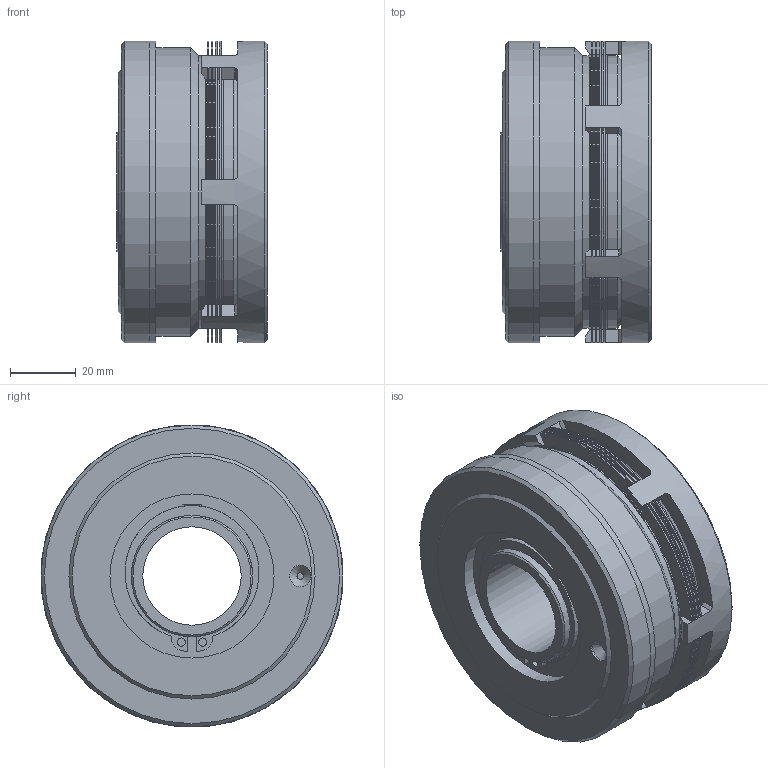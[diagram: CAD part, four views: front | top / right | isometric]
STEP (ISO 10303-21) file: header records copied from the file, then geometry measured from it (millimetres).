
FILE_DESCRIPTION(/* description */ (''),/* implementation_level */ '2;1');
FILE_NAME(/* name */ 'X:\INVENTOR\DISEGNI\05_Friz_Elettmag-Lam\05_03 EC_C\05_03_092_01 EC092_C\05_03_092_01 EC092_C@STEP.stp',/* time_stamp */ '2023-03-07T10:20:02+01:00',/* author */ ('alessio'),/* organization */ (''),/* preprocessor_version */ 'ST-DEVELOPER v18.1',/* originating_system */ 'Autodesk Inventor 2021',/* authorisation */ '');
FILE_SCHEMA (('AUTOMOTIVE_DESIGN { 1 0 10303 214 3 1 1 }'));
Products named in the file (1): 05_03_092_01 EC092_C
Bounding box: 46 x 92 x 92 mm (x, y, z)
Volume: 214704.9 mm3; surface area: 111790.9 mm2
Topology: 6 solids, 9 shells, 1429 faces, 4671 edges, 3004 vertices
Faces by surface type: cylinder 1094, plane 266, torus 56, cone 13
Full cylindrical faces by diameter (mm): 2 x1, 2.5 x2, 6.5 x1, 30 x2, 32 x1, 35 x1, 37 x1, 44.5 x4, 45 x2, 50 x1, 55 x1, 58 x1, 59 x1, 71 x1, 74 x1, 81 x1, 82 x1, 83 x2, 83.35 x5, 84 x1, 88 x1, 92 x3
Entity records: 55216 total; most frequent: CARTESIAN_POINT 10382, DIRECTION 10186, ORIENTED_EDGE 9342, EDGE_CURVE 4671, AXIS2_PLACEMENT_3D 4209, VERTEX_POINT 3004, CIRCLE 2755, LINE 1768
